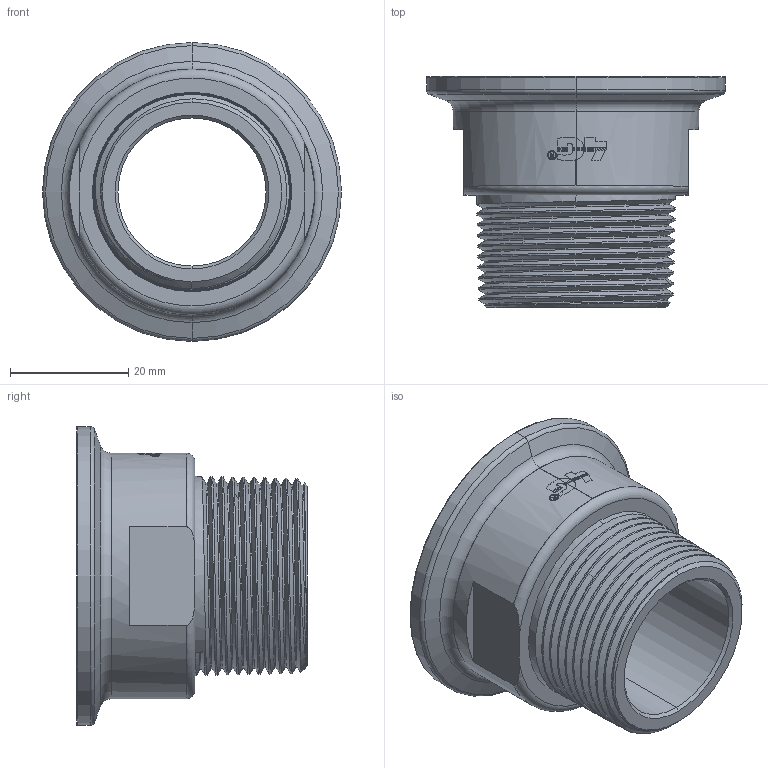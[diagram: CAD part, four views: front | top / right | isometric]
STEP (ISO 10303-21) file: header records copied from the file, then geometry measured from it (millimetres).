
FILE_DESCRIPTION((''),'2;1');
FILE_NAME('76806563400','2025-03-14T14:05:43',('alfio.taboni'),('CDM Tecnoconsulting'),'CREO PARAMETRIC BY PTC INC, 2024063','CREO PARAMETRIC BY PTC INC, 2024063','');
FILE_SCHEMA(('CONFIG_CONTROL_DESIGN','SHAPE_APPEARANCE_LAYERS_GROUPS'));
Length unit declared in the file: millimetre
Products named in the file (1): 76806563400
Bounding box: 50.5 x 39 x 50.5 mm (x, y, z)
Volume: 19224.2 mm3; surface area: 12974.1 mm2
Topology: 1 solids, 3 shells, 237 faces, 642 edges, 422 vertices
Faces by surface type: plane 109, extrusion 56, cone 31, torus 20, cylinder 12, bspline 9
Entity records: 15083 total; most frequent: CARTESIAN_POINT 9393, ORIENTED_EDGE 1268, DIRECTION 951, EDGE_CURVE 642, VERTEX_POINT 422, VECTOR 377, LINE 321, AXIS2_PLACEMENT_3D 287
